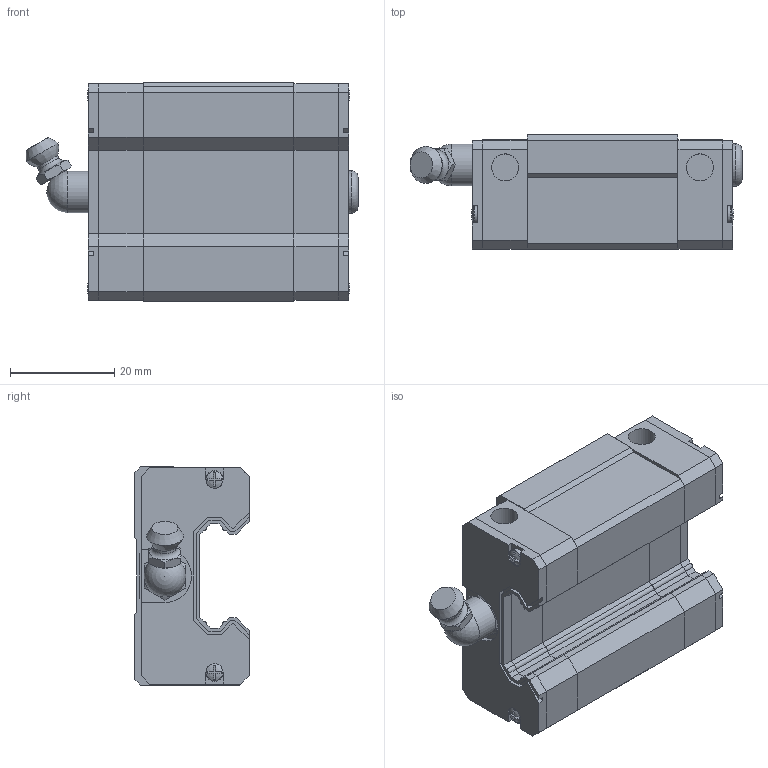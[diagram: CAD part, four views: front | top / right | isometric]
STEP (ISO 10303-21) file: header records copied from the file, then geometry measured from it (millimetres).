
FILE_DESCRIPTION(('FreeCAD Model'),'2;1');
FILE_NAME('Open CASCADE Shape Model','2024-12-05T10:36:04',('Author'),( ''),'Open CASCADE STEP processor 7.6','FreeCAD','Unknown');
FILE_SCHEMA(('AUTOMOTIVE_DESIGN { 1 0 10303 214 1 1 1 1 }'));
Length unit declared in the file: millimetre
Products named in the file (7): EH20SA; GEH20SA_slider; GES20_C; GES20_P; GH20_SCREW; GH20_BOLT; GH20-_G
Assembly tree (11 placements, depth 2):
  EH20SA
    GEH20SA_slider
    GES20_C  x2
    GES20_P  x2
    GH20_SCREW  x4
    GH20_BOLT
    GH20-_G
Bounding box: 63.8 x 22 x 42 mm (x, y, z)
Volume: 35415.6 mm3; surface area: 16173.7 mm2
Topology: 11 solids, 11 shells, 379 faces, 1005 edges, 660 vertices
Faces by surface type: plane 300, cylinder 49, cone 18, torus 6, sphere 5, bspline 1
Full cylindrical faces by diameter (mm): 2.3 x4, 3.414 x4, 4.134 x2, 4.5 x1, 5.2 x4, 6 x2, 6.5 x2, 7.2 x2, 8 x1, 8.2 x1
Entity records: 6976 total; most frequent: CARTESIAN_POINT 1369, ORIENTED_EDGE 1138, DIRECTION 1066, EDGE_CURVE 569, LINE 420, VECTOR 420, VERTEX_POINT 372, AXIS2_PLACEMENT_3D 323
